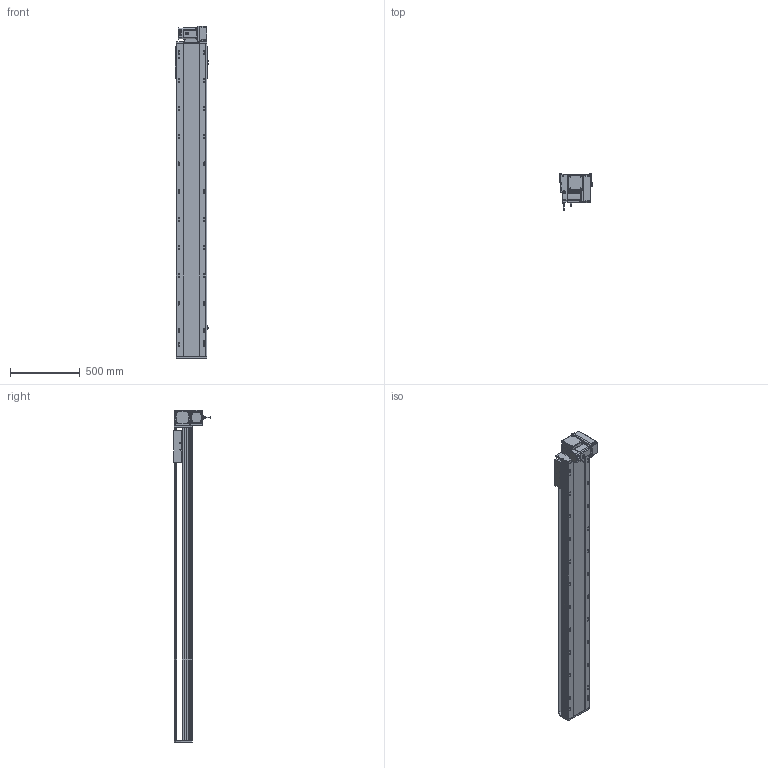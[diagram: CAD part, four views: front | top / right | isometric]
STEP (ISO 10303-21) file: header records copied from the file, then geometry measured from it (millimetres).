
FILE_DESCRIPTION (( 'STEP AP203' ), '1' );
FILE_NAME ('RTB22S-XX-1900-RM-M75-C4.STEP', '2025-12-12T07:52:24', ( '' ), ( '' ), 'SwSTEP 2.0', 'SolidWorks 2018', '' );
FILE_SCHEMA (( 'CONFIG_CONTROL_DESIGN' ));
Length unit declared in the file: millimetre
Products named in the file (14): RTB22S-XX-1900-RM-M75-C4; RTB22S-GY-014--々湍釱^RTB22S-RM-々湍釱蚾饜_RTB22S-XX-XX-RM-M75-C4; RTB22S-GY-001耜裔^RTB22S-XX-XX-RM-M75-C4; RTB22S-GY-018P^RTB22S-RM-々湍釱蚾饜_RTB22S-XX-XX-RM-M75-C4; RTB22S-GY-017P^RTB22S-RM-々湍釱蚾饜_RTB22S-XX-XX-RM-M75-C4; 750W萇儂^RTB22S-XX-XX-RM-M75-C4; OMRON EE-SX672 传感器^RTB22S-XX-XX-RM-M75-C4; RTB22S-L-011菁釱^RTB22S-XX-XX-RM-M75-C4; RTB22S-L-004賑釱^RTB22S-XX-XX-RM-M75-C4; RTH22-GY-013外置感应片^RTB22S-XX-XX-RM-M75-C4; RTB22S-GY-005P^RTB22S-RM-々湍釱蚾饜_RTB22S-XX-XX-RM-M75-C4; RTB22S-RM-々湍釱蚾饜^RTB22S-XX-XX-RM-M75-C4; RTB22S-GY-008-M75--萇儂啣^RTB22S-RM-々湍釱蚾饜_RTB22S-XX-XX-RM-M75-C4; RTB22S-GY-007奻裔^RTB22S-XX-XX-RM-M75-C4
Assembly tree (16 placements, depth 3):
  RTB22S-XX-1900-RM-M75-C4
    RTB22S-L-011菁釱^RTB22S-XX-XX-RM-M75-C4
    RTB22S-GY-001耜裔^RTB22S-XX-XX-RM-M75-C4
    750W萇儂^RTB22S-XX-XX-RM-M75-C4
    RTB22S-GY-007奻裔^RTB22S-XX-XX-RM-M75-C4
    RTB22S-L-004賑釱^RTB22S-XX-XX-RM-M75-C4
    RTH22-GY-013外置感应片^RTB22S-XX-XX-RM-M75-C4
    OMRON EE-SX672 传感器^RTB22S-XX-XX-RM-M75-C4  x3
    RTB22S-RM-々湍釱蚾饜^RTB22S-XX-XX-RM-M75-C4
      RTB22S-GY-014--々湍釱^RTB22S-RM-々湍釱蚾饜_RTB22S-XX-XX-RM-M75-C4
      RTB22S-GY-017P^RTB22S-RM-々湍釱蚾饜_RTB22S-XX-XX-RM-M75-C4  x2
      RTB22S-GY-005P^RTB22S-RM-々湍釱蚾饜_RTB22S-XX-XX-RM-M75-C4
      RTB22S-GY-008-M75--萇儂啣^RTB22S-RM-々湍釱蚾饜_RTB22S-XX-XX-RM-M75-C4
      RTB22S-GY-018P^RTB22S-RM-々湍釱蚾饜_RTB22S-XX-XX-RM-M75-C4
Bounding box: 238.5 x 264.7 x 2387.5 mm (x, y, z)
Volume: 31772775.5 mm3; surface area: 3265253 mm2
Topology: 15 solids, 15 shells, 2055 faces, 5586 edges, 3572 vertices
Faces by surface type: plane 923, cylinder 670, bspline 296, cone 154, sphere 8, torus 4
Entity records: 54864 total; most frequent: CARTESIAN_POINT 15764, ORIENTED_EDGE 7928, DIRECTION 7698, EDGE_CURVE 3964, AXIS2_PLACEMENT_3D 2742, VERTEX_POINT 2576, VECTOR 2214, LINE 2214
